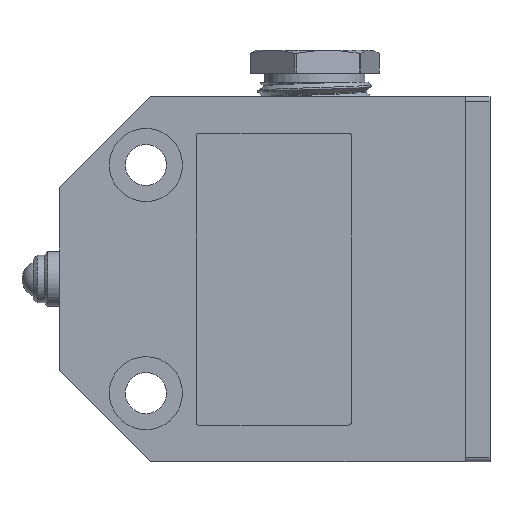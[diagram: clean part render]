
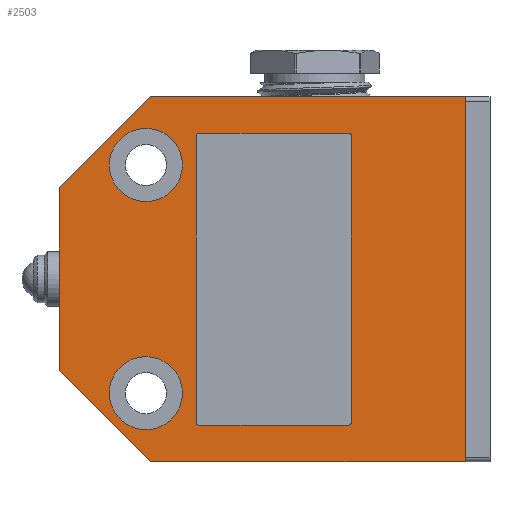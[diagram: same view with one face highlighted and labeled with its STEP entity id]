
A CAD part, left-side view. The second image highlights one B-rep face of the part: STEP entity #2503.
In plain terms, the highlighted planar face has unit normal (-1, 0, 0).
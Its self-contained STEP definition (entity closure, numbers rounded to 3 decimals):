
#1809=CARTESIAN_POINT('',(-10.0,11.95,16.0));
#1810=VERTEX_POINT('',#1809);
#1817=CARTESIAN_POINT('',(-10.0,12.25,15.7));
#1818=VERTEX_POINT('',#1817);
#1819=CARTESIAN_POINT('',(-10.0,11.95,15.7));
#1820=DIRECTION('',(-1.,0.0,0.0));
#1821=DIRECTION('',(0.0,0.707,0.707));
#1822=AXIS2_PLACEMENT_3D('',#1819,#1820,#1821);
#1823=CIRCLE('',#1822,0.3);
#1824=EDGE_CURVE('',#1810,#1818,#1823,.T.);
#1907=CARTESIAN_POINT('',(-10.0,12.25,-15.7));
#1908=VERTEX_POINT('',#1907);
#1909=CARTESIAN_POINT('',(-10.0,12.25,-15.7));
#1910=DIRECTION('',(0.0,0.0,1.0));
#1911=VECTOR('',#1910,31.4);
#1912=LINE('',#1909,#1911);
#1913=EDGE_CURVE('',#1908,#1818,#1912,.T.);
#1932=CARTESIAN_POINT('',(-10.0,11.95,-16.));
#1933=VERTEX_POINT('',#1932);
#1934=CARTESIAN_POINT('',(-10.0,11.95,-15.7));
#1935=DIRECTION('',(-1.,0.0,0.0));
#1936=DIRECTION('',(0.0,0.707,-0.707));
#1937=AXIS2_PLACEMENT_3D('',#1934,#1935,#1936);
#1938=CIRCLE('',#1937,0.3);
#1939=EDGE_CURVE('',#1908,#1933,#1938,.T.);
#1956=CARTESIAN_POINT('',(-10.0,-4.75,15.7));
#1957=VERTEX_POINT('',#1956);
#1964=CARTESIAN_POINT('',(-10.0,-4.45,16.));
#1965=VERTEX_POINT('',#1964);
#1966=CARTESIAN_POINT('',(-10.0,-4.45,15.7));
#1967=DIRECTION('',(-1.0,0.0,0.0));
#1968=DIRECTION('',(0.0,-0.707,0.707));
#1969=AXIS2_PLACEMENT_3D('',#1966,#1967,#1968);
#1970=CIRCLE('',#1969,0.3);
#1971=EDGE_CURVE('',#1957,#1965,#1970,.T.);
#1989=CARTESIAN_POINT('',(-10.0,-4.75,-15.7));
#1990=VERTEX_POINT('',#1989);
#1997=CARTESIAN_POINT('',(-10.0,-4.75,15.7));
#1998=DIRECTION('',(0.0,0.0,-1.0));
#1999=VECTOR('',#1998,31.4);
#2000=LINE('',#1997,#1999);
#2001=EDGE_CURVE('',#1957,#1990,#2000,.T.);
#2012=CARTESIAN_POINT('',(-10.0,-4.45,-16.0));
#2013=VERTEX_POINT('',#2012);
#2020=CARTESIAN_POINT('',(-10.0,-4.45,-15.7));
#2021=DIRECTION('',(-1.0,0.0,0.0));
#2022=DIRECTION('',(0.0,-0.707,-0.707));
#2023=AXIS2_PLACEMENT_3D('',#2020,#2021,#2022);
#2024=CIRCLE('',#2023,0.3);
#2025=EDGE_CURVE('',#2013,#1990,#2024,.T.);
#2037=CARTESIAN_POINT('',(-10.0,-4.45,-16.0));
#2038=DIRECTION('',(0.0,1.0,0.0));
#2039=VECTOR('',#2038,16.4);
#2040=LINE('',#2037,#2039);
#2041=EDGE_CURVE('',#2013,#1933,#2040,.T.);
#2056=CARTESIAN_POINT('',(-10.0,11.95,16.0));
#2057=DIRECTION('',(0.0,-1.0,0.0));
#2058=VECTOR('',#2057,16.4);
#2059=LINE('',#2056,#2058);
#2060=EDGE_CURVE('',#1810,#1965,#2059,.T.);
#2212=CARTESIAN_POINT('',(-10.0,27.25,-10.0));
#2213=VERTEX_POINT('',#2212);
#2220=CARTESIAN_POINT('',(-10.0,27.25,10.0));
#2221=VERTEX_POINT('',#2220);
#2222=CARTESIAN_POINT('',(-10.0,27.25,-10.0));
#2223=DIRECTION('',(0.0,0.0,1.0));
#2224=VECTOR('',#2223,20.0);
#2225=LINE('',#2222,#2224);
#2226=EDGE_CURVE('',#2213,#2221,#2225,.T.);
#2257=CARTESIAN_POINT('',(-10.0,13.75,12.5));
#2258=VERTEX_POINT('',#2257);
#2259=CARTESIAN_POINT('',(-10.0,17.75,12.5));
#2260=DIRECTION('',(1.0,0.0,0.0));
#2261=DIRECTION('',(0.0,1.0,0.0));
#2262=AXIS2_PLACEMENT_3D('',#2259,#2260,#2261);
#2263=CIRCLE('',#2262,4.0);
#2264=EDGE_CURVE('',#2258,#2258,#2263,.T.);
#2305=CARTESIAN_POINT('',(-10.0,13.75,-12.5));
#2306=VERTEX_POINT('',#2305);
#2307=CARTESIAN_POINT('',(-10.0,17.75,-12.5));
#2308=DIRECTION('',(1.0,0.0,0.0));
#2309=DIRECTION('',(0.0,1.0,0.0));
#2310=AXIS2_PLACEMENT_3D('',#2307,#2308,#2309);
#2311=CIRCLE('',#2310,4.0);
#2312=EDGE_CURVE('',#2306,#2306,#2311,.T.);
#2441=CARTESIAN_POINT('',(-10.0,3.079,0.));
#2442=DIRECTION('',(1.0,0.0,0.0));
#2443=DIRECTION('',(0.0,-1.0,0.0));
#2444=AXIS2_PLACEMENT_3D('',#2441,#2442,#2443);
#2445=PLANE('',#2444);
#2446=CARTESIAN_POINT('',(-10.0,17.25,20.0));
#2447=VERTEX_POINT('',#2446);
#2448=CARTESIAN_POINT('',(-10.0,27.25,10.));
#2449=DIRECTION('',(0.0,-0.707,0.707));
#2450=VECTOR('',#2449,14.142);
#2451=LINE('',#2448,#2450);
#2452=EDGE_CURVE('',#2221,#2447,#2451,.T.);
#2453=ORIENTED_EDGE('',*,*,#2452,.F.);
#2454=ORIENTED_EDGE('',*,*,#2226,.F.);
#2455=CARTESIAN_POINT('',(-10.0,17.25,-20.0));
#2456=VERTEX_POINT('',#2455);
#2457=CARTESIAN_POINT('',(-10.0,17.25,-20.0));
#2458=DIRECTION('',(0.0,0.707,0.707));
#2459=VECTOR('',#2458,14.142);
#2460=LINE('',#2457,#2459);
#2461=EDGE_CURVE('',#2456,#2213,#2460,.T.);
#2462=ORIENTED_EDGE('',*,*,#2461,.F.);
#2463=CARTESIAN_POINT('',(-10.0,-17.25,-20.0));
#2464=VERTEX_POINT('',#2463);
#2465=CARTESIAN_POINT('',(-10.0,-17.25,-20.0));
#2466=DIRECTION('',(0.0,1.0,0.0));
#2467=VECTOR('',#2466,34.5);
#2468=LINE('',#2465,#2467);
#2469=EDGE_CURVE('',#2464,#2456,#2468,.T.);
#2470=ORIENTED_EDGE('',*,*,#2469,.F.);
#2471=CARTESIAN_POINT('',(-10.0,-17.25,20.0));
#2472=VERTEX_POINT('',#2471);
#2473=CARTESIAN_POINT('',(-10.0,-17.25,20.0));
#2474=DIRECTION('',(0.0,0.0,-1.0));
#2475=VECTOR('',#2474,40.0);
#2476=LINE('',#2473,#2475);
#2477=EDGE_CURVE('',#2472,#2464,#2476,.T.);
#2478=ORIENTED_EDGE('',*,*,#2477,.F.);
#2479=CARTESIAN_POINT('',(-10.0,17.25,20.0));
#2480=DIRECTION('',(0.0,-1.0,0.0));
#2481=VECTOR('',#2480,34.5);
#2482=LINE('',#2479,#2481);
#2483=EDGE_CURVE('',#2447,#2472,#2482,.T.);
#2484=ORIENTED_EDGE('',*,*,#2483,.F.);
#2485=EDGE_LOOP('',(#2453,#2454,#2462,#2470,#2478,#2484));
#2486=FACE_OUTER_BOUND('',#2485,.T.);
#2487=ORIENTED_EDGE('',*,*,#2001,.T.);
#2488=ORIENTED_EDGE('',*,*,#2025,.F.);
#2489=ORIENTED_EDGE('',*,*,#2041,.T.);
#2490=ORIENTED_EDGE('',*,*,#1939,.F.);
#2491=ORIENTED_EDGE('',*,*,#1913,.T.);
#2492=ORIENTED_EDGE('',*,*,#1824,.F.);
#2493=ORIENTED_EDGE('',*,*,#2060,.T.);
#2494=ORIENTED_EDGE('',*,*,#1971,.F.);
#2495=EDGE_LOOP('',(#2487,#2488,#2489,#2490,#2491,#2492,#2493,#2494));
#2496=FACE_BOUND('',#2495,.T.);
#2497=ORIENTED_EDGE('',*,*,#2264,.T.);
#2498=EDGE_LOOP('',(#2497));
#2499=FACE_BOUND('',#2498,.T.);
#2500=ORIENTED_EDGE('',*,*,#2312,.T.);
#2501=EDGE_LOOP('',(#2500));
#2502=FACE_BOUND('',#2501,.T.);
#2503=ADVANCED_FACE('',(#2486,#2496,#2499,#2502),#2445,.F.);
